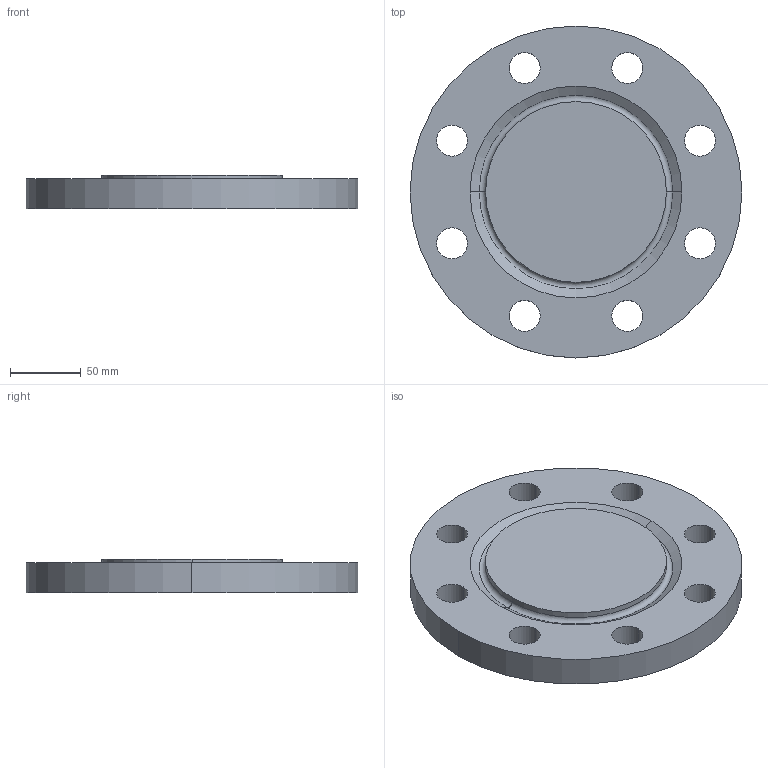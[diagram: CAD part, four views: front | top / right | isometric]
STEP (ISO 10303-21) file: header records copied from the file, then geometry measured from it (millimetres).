
FILE_DESCRIPTION (( 'STEP AP214' ), '1' );
FILE_NAME ('PN40 DN100 Type 05 - Type H Face.STEP', '2019-01-02T00:24:40', ( '' ), ( '' ), 'SwSTEP 2.0', 'SolidWorks 2019', '' );
FILE_SCHEMA (( 'AUTOMOTIVE_DESIGN' ));
Length unit declared in the file: millimetre
Products named in the file (1): PN40 DN100 Type 05 - Type H Face
Bounding box: 235 x 235 x 24 mm (x, y, z)
Volume: 885841.3 mm3; surface area: 111291 mm2
Topology: 1 solids, 1 shells, 27 faces, 68 edges, 44 vertices
Faces by surface type: cylinder 20, plane 3, torus 2, cone 2
Entity records: 902 total; most frequent: DIRECTION 170, CARTESIAN_POINT 140, ORIENTED_EDGE 136, AXIS2_PLACEMENT_3D 74, EDGE_CURVE 68, CIRCLE 46, VERTEX_POINT 44, EDGE_LOOP 44
